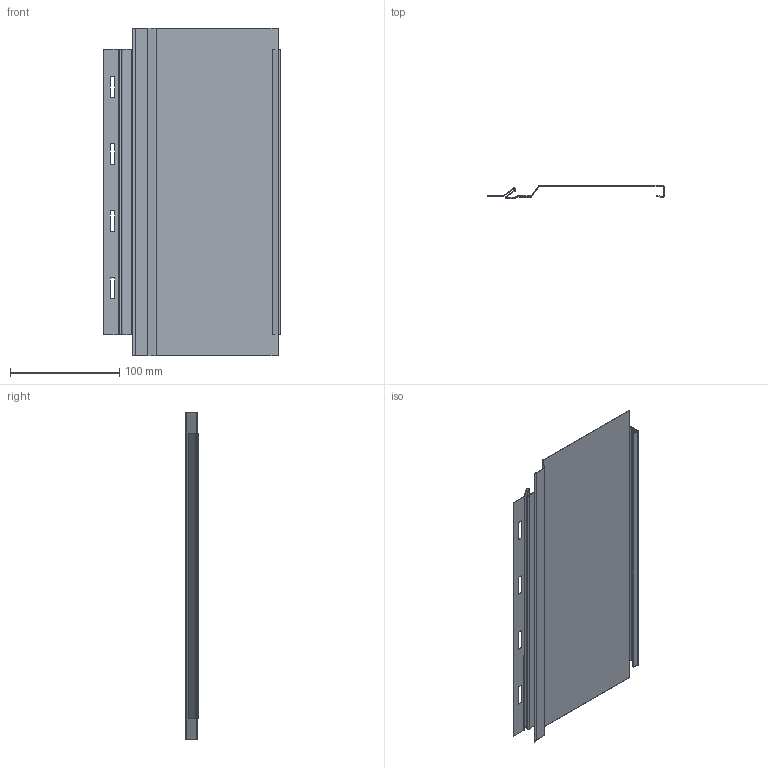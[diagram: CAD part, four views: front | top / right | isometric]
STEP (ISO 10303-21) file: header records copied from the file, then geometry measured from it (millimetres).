
FILE_DESCRIPTION (( 'STEP AP203' ), '1' );
FILE_NAME ('NORWOOD.STEP', '2018-07-23T14:21:54', ( 'Michael Moliner' ), ( '' ), 'SwSTEP 2.0', 'SolidWorks 2018', '' );
FILE_SCHEMA (( 'CONFIG_CONTROL_DESIGN' ));
Length unit declared in the file: inch
Products named in the file (2): NORWOOD
Bounding box: 161.72 x 12.32 x 300 mm (x, y, z)
Volume: 29989.3 mm3; surface area: 118683.3 mm2
Topology: 1 solids, 1 shells, 66 faces, 192 edges, 128 vertices
Faces by surface type: plane 46, cylinder 20
Entity records: 2357 total; most frequent: CARTESIAN_POINT 388, ORIENTED_EDGE 384, DIRECTION 376, EDGE_CURVE 192, VECTOR 144, LINE 144, VERTEX_POINT 128, AXIS2_PLACEMENT_3D 116
